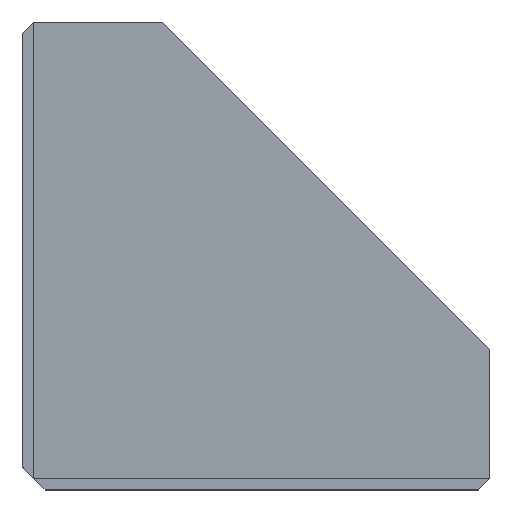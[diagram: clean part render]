
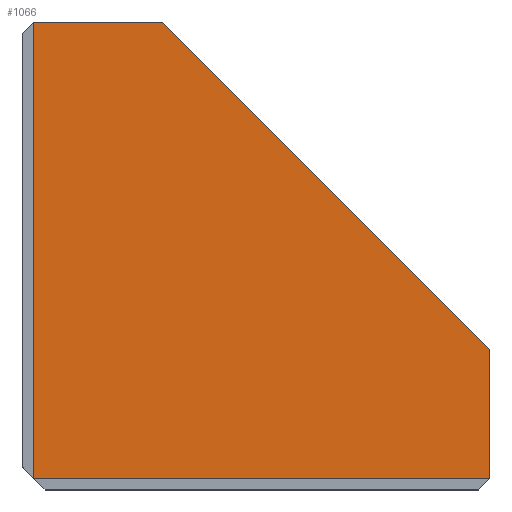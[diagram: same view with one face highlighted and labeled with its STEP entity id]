
A CAD part, top view. The second image highlights one B-rep face of the part: STEP entity #1066.
In plain terms, the highlighted planar face has unit normal (0, 0, 1).
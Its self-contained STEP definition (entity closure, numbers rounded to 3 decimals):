
#106=FACE_OUTER_BOUND('',#168,.T.);
#168=EDGE_LOOP('',(#956,#957,#958,#959,#960));
#174=LINE('',#1468,#302);
#226=LINE('',#1575,#354);
#231=LINE('',#1585,#359);
#291=LINE('',#1742,#419);
#296=LINE('',#1751,#424);
#302=VECTOR('',#1179,10.);
#354=VECTOR('',#1271,10.);
#359=VECTOR('',#1282,10.);
#419=VECTOR('',#1440,10.);
#424=VECTOR('',#1451,10.);
#429=VERTEX_POINT('',#1465);
#430=VERTEX_POINT('',#1467);
#465=VERTEX_POINT('',#1573);
#467=VERTEX_POINT('',#1583);
#515=VERTEX_POINT('',#1741);
#522=EDGE_CURVE('',#430,#429,#174,.T.);
#576=EDGE_CURVE('',#429,#465,#226,.T.);
#581=EDGE_CURVE('',#465,#467,#231,.T.);
#659=EDGE_CURVE('',#515,#430,#291,.T.);
#664=EDGE_CURVE('',#467,#515,#296,.T.);
#956=ORIENTED_EDGE('',*,*,#522,.T.);
#957=ORIENTED_EDGE('',*,*,#576,.T.);
#958=ORIENTED_EDGE('',*,*,#581,.T.);
#959=ORIENTED_EDGE('',*,*,#664,.T.);
#960=ORIENTED_EDGE('',*,*,#659,.T.);
#1008=PLANE('',#1167);
#1066=ADVANCED_FACE('',(#106),#1008,.T.);
#1167=AXIS2_PLACEMENT_3D('',#1752,#1452,#1453);
#1179=DIRECTION('',(-1.,0.,0.));
#1271=DIRECTION('',(0.,-1.,0.));
#1282=DIRECTION('',(1.,0.,0.));
#1440=DIRECTION('',(-0.707,0.707,0.));
#1451=DIRECTION('',(0.,1.,0.));
#1452=DIRECTION('center_axis',(0.,0.,1.));
#1453=DIRECTION('ref_axis',(1.,0.,0.));
#1465=CARTESIAN_POINT('',(0.,20.,7.5));
#1467=CARTESIAN_POINT('',(5.657,20.,7.5));
#1468=CARTESIAN_POINT('',(20.,20.,7.5));
#1573=CARTESIAN_POINT('',(0.,0.,7.5));
#1575=CARTESIAN_POINT('',(0.,20.,7.5));
#1583=CARTESIAN_POINT('',(20.,0.,7.5));
#1585=CARTESIAN_POINT('',(0.,0.,7.5));
#1741=CARTESIAN_POINT('',(20.,5.657,7.5));
#1742=CARTESIAN_POINT('',(20.,5.657,7.5));
#1751=CARTESIAN_POINT('',(20.,0.,7.5));
#1752=CARTESIAN_POINT('Origin',(10.,10.,7.5));
